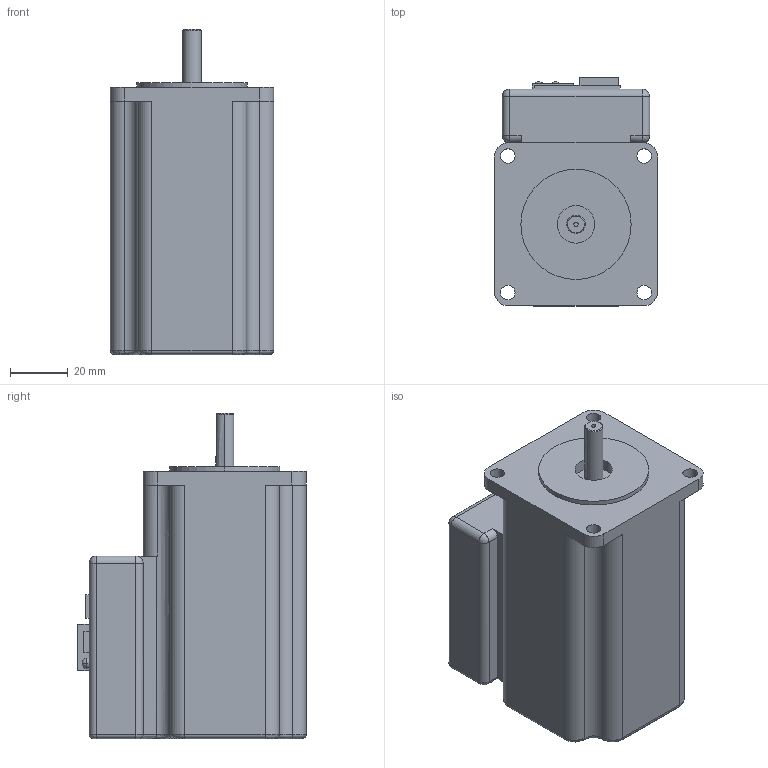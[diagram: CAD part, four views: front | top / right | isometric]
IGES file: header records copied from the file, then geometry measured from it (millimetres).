
Start section:  PTC IGES file: cu_ism-7411.igs
Global section: file name: cu_ism-7411.igs; native system: Creo Parametric by Parametric Technology Corporation; preprocessor: 2014000; author: jbuhisan; organization: Unknown; date: 20140724.130952; units: centimetre
Bounding box: 56.4 x 79 x 112.4 mm (x, y, z)
Surface area: 33249.2 mm2 (no closed solid volume)
Topology: 0 solids, 0 shells, 156 faces, 832 edges, 828 vertices
Faces by surface type: revolution 78, bspline 78
